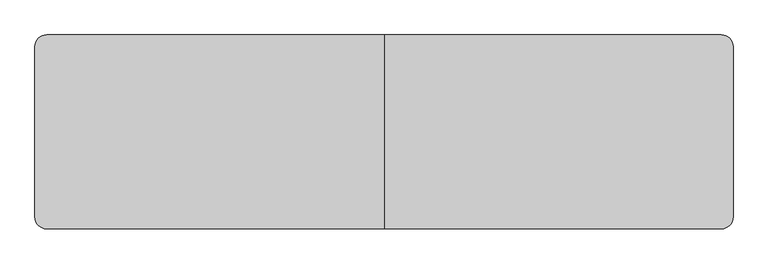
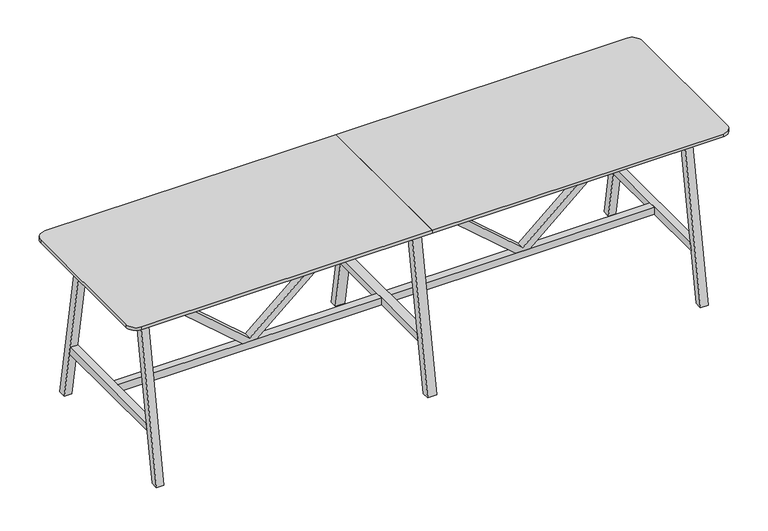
"""IFC4 building model written with IfcOpenShell, lengths in millimetres: furniture geometry, BDG_BossDesign_Tbls_AgentTables6Legs : AGE-HT-6L-3600-1000-3D."""

from ifc_helpers import new_model, si_unit, point, frame, frame_2d, origin, place, context, project, spatial, polyline, circle_curve, trimmed, segment, composite_curve, outline, extrude, source, transform, mapped, element, save


def furniture_ba73165f(model_context):
    return source(origin(), model_context, "Body", "SweptSolid", [
        extrude(outline(polyline([(345.0, 774.0823957), (345.0, 858.4176043), (992.0, 1605.0), (1032.0, 1605.0), (1032.0, 1585.0), (365.0, 816.25), (1032.0, 47.5), (1032.0, 27.5), (992.0, 27.5), (345.0, 774.0823957)])), frame((0.0, -22.5000305, 0.0), z_axis=(0.0, 1.0, 0.0), x_axis=(0.0, 0.0, 1.0)), (0.0, 0.0, 1.0), 45.000061),
        extrude(outline(polyline([(345.0, -774.0823957), (992.0, -27.5), (1032.0, -27.5), (1032.0, -47.5), (365.0, -816.25), (1032.0, -1585.0), (1032.0, -1605.0), (992.0, -1605.0), (345.0, -858.4176043), (345.0, -774.0823957)])), frame((0.0, -22.5000305, 0.0), z_axis=(0.0, 1.0, 0.0), x_axis=(0.0, 0.0, 1.0)), (0.0, 0.0, 1.0), 45.000061),
        extrude(outline(polyline([(500.0, 0.0), (454.9999949, 0.0), (285.5, 970.0), (330.5000051, 970.0), (500.0, 0.0)])), frame((-27.5, 0.0, 0.0), z_axis=(1.0, 0.0, 0.0), x_axis=(0.0, 1.0, 0.0)), (0.0, 0.0, 1.0), 55.0),
        extrude(outline(polyline([(-500.0, 0.0), (-330.5000051, 970.0), (-285.5, 970.0), (-454.9999949, 0.0), (-500.0, 0.0)])), frame((-27.5, 0.0, 0.0), z_axis=(1.0, 0.0, 0.0), x_axis=(0.0, 1.0, 0.0)), (0.0, 0.0, 1.0), 55.0),
        extrude(outline(polyline([(402.5773161, 300.0), (-402.5773161, 300.0), (-394.7139143, 345.0), (394.7139143, 345.0), (402.5773161, 300.0)])), frame((-27.5, 0.0, 0.0), z_axis=(1.0, 0.0, 0.0), x_axis=(0.0, 1.0, 0.0)), (0.0, 0.0, 1.0), 55.0),
        extrude(outline(composite_curve([segment(polyline([(0.0, 500.0), (0.0, -500.0), (-1740.0, -500.0)]), True, "CONTINUOUS"), segment(trimmed(circle_curve(frame_2d((-1740.0, -440.0)), 60.0), [point((-1740.0, -500.0))], [point((-1800.0, -440.0))], False, "CARTESIAN"), True, "CONTINUOUS"), segment(polyline([(-1800.0, -440.0), (-1800.0, 440.0)]), True, "CONTINUOUS"), segment(trimmed(circle_curve(frame_2d((-1740.0, 440.0)), 60.0), [point((-1800.0, 440.0))], [point((-1740.0, 500.0))], False, "CARTESIAN"), True, "CONTINUOUS"), segment(polyline([(-1740.0, 500.0), (0.0, 500.0)]), True, "CONTINUOUS")], self_intersect=False)), frame((0.0, 0.0, 1032.0), z_axis=(0.0, 0.0, 1.0), x_axis=(1.0, 0.0, 0.0)), (0.0, 0.0, 1.0), 18.0),
        extrude(outline(polyline([(-394.7139143, 345.0), (394.7139143, 345.0), (402.5773161, 300.0), (-402.5773161, 300.0), (-394.7139143, 345.0)])), frame((1605.0, 0.0, 0.0), z_axis=(1.0, 0.0, 0.0), x_axis=(0.0, 1.0, 0.0)), (0.0, 0.0, 1.0), 45.0),
        extrude(outline(polyline([(500.0, 0.0), (454.9999949, 0.0), (285.5, 970.0), (330.5000051, 970.0), (500.0, 0.0)])), frame((-1650.0, 0.0, 0.0), z_axis=(1.0, 0.0, 0.0), x_axis=(0.0, 1.0, 0.0)), (0.0, 0.0, 1.0), 45.0),
        extrude(outline(polyline([(-500.0, 0.0), (-330.5000051, 970.0), (-285.5, 970.0), (-454.9999949, 0.0), (-500.0, 0.0)])), frame((-1650.0, 0.0, 0.0), z_axis=(1.0, 0.0, 0.0), x_axis=(0.0, 1.0, 0.0)), (0.0, 0.0, 1.0), 45.0),
        extrude(outline(polyline([(-394.7139143, 345.0), (394.7139143, 345.0), (402.5773161, 300.0), (-402.5773161, 300.0), (-394.7139143, 345.0)])), frame((-1650.0, 0.0, 0.0), z_axis=(1.0, 0.0, 0.0), x_axis=(0.0, 1.0, 0.0)), (0.0, 0.0, 1.0), 45.0),
        extrude(outline(polyline([(-326.6006165, 944.973938), (-304.2770691, 1032.0), (-279.5, 1032.0), (-301.8235474, 944.973938), (-326.6006165, 944.973938)])), frame((-1605.0, 0.0, 0.0), z_axis=(1.0, 0.0, 0.0), x_axis=(0.0, 1.0, 0.0)), (0.0, 0.0, 1.0), 3210.0),
        extrude(outline(polyline([(326.6006165, 944.973938), (301.8235474, 944.973938), (279.5, 1032.0), (304.2770691, 1032.0), (326.6006165, 944.973938)])), frame((-1605.0, 0.0, 0.0), z_axis=(1.0, 0.0, 0.0), x_axis=(0.0, 1.0, 0.0)), (0.0, 0.0, 1.0), 3210.0),
        extrude(outline(polyline([(499.7999878, 0.0), (454.7999827, 0.0), (285.5, 970.0), (330.5000051, 970.0), (499.7999878, 0.0)])), frame((1605.0, 0.0, 0.0), z_axis=(1.0, 0.0, 0.0), x_axis=(0.0, 1.0, 0.0)), (0.0, 0.0, 1.0), 45.0),
        extrude(outline(polyline([(-499.7999878, 0.0), (-330.5000051, 970.0), (-285.5, 970.0), (-454.7999827, 0.0), (-499.7999878, 0.0)])), frame((1605.0, 0.0, 0.0), z_axis=(1.0, 0.0, 0.0), x_axis=(0.0, 1.0, 0.0)), (0.0, 0.0, 1.0), 45.0),
        extrude(outline(polyline([(-27.5, 22.5000305), (-27.5, -22.5000305), (-1605.0, -22.5000305), (-1605.0, 22.5000305), (-27.5, 22.5000305)])), frame((0.0, 0.0, 300.0), z_axis=(0.0, 0.0, 1.0), x_axis=(1.0, 0.0, 0.0)), (0.0, 0.0, 1.0), 45.0),
        extrude(outline(polyline([(27.5, -22.5000305), (27.5, 22.5000305), (1605.0, 22.5000305), (1605.0, -22.5000305), (27.5, -22.5000305)])), frame((0.0, 0.0, 300.0), z_axis=(0.0, 0.0, 1.0), x_axis=(1.0, 0.0, 0.0)), (0.0, 0.0, 1.0), 45.0),
        extrude(outline(composite_curve([segment(trimmed(circle_curve(frame_2d((1740.0, 440.0)), 60.0), [point((1740.0, 500.0))], [point((1800.0, 440.0))], False, "CARTESIAN"), True, "CONTINUOUS"), segment(polyline([(1800.0, 440.0), (1800.0, -440.0)]), True, "CONTINUOUS"), segment(trimmed(circle_curve(frame_2d((1740.0, -440.0)), 60.0), [point((1800.0, -440.0))], [point((1740.0, -500.0))], False, "CARTESIAN"), True, "CONTINUOUS"), segment(polyline([(1740.0, -500.0), (0.0, -500.0), (0.0, 500.0), (1740.0, 500.0)]), True, "CONTINUOUS")], self_intersect=False)), frame((0.0, 0.0, 1032.0), z_axis=(0.0, 0.0, 1.0), x_axis=(1.0, 0.0, 0.0)), (0.0, 0.0, 1.0), 18.0),
    ])


if __name__ == "__main__":
    model = new_model("IFC4")
    model_context = context("Model", 3, world=origin())
    ifc_project = project(units=[si_unit("LENGTHUNIT", "METRE", prefix="MILLI")], contexts=[model_context])
    site = spatial("IfcSite", under=ifc_project)
    building = spatial("IfcBuilding", under=site)
    placement = place(None, origin())
    furniture_shape = furniture_ba73165f(model_context)
    element("IfcFurniture", 1, ObjectType="BDG_BossDesign_Tbls_AgentTables6Legs : AGE-HT-6L-3600-1000-3D", at=placement, inside=building, context=model_context, shape_type="MappedRepresentation", body=[
        mapped(furniture_shape, transform((0.0, 0.0, 0.0), x_axis=(1.0, 0.0, 0.0), y_axis=(0.0, 1.0, 0.0), z_axis=(0.0, 0.0, 1.0))),
    ])
    save(model, "model.ifc")
